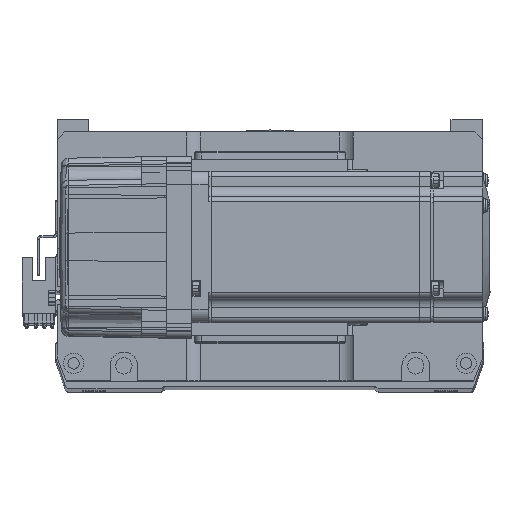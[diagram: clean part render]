
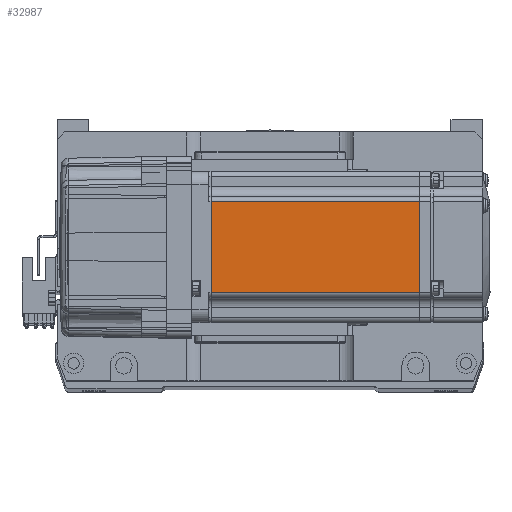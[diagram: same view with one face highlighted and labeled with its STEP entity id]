
A CAD part, top view. The second image highlights one B-rep face of the part: STEP entity #32987.
In plain terms, the highlighted planar face has unit normal (0, 0, 1) as drawn and (0, -1, 0) by its records, which use the part's own axes.
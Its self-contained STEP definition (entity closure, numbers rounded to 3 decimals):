
#3646 = DIRECTION ( 'NONE',  ( -1., 0., 0. ) ) ;
#3876 = AXIS2_PLACEMENT_3D ( 'NONE', #10852, #5365, #58287 ) ;
#3957 = CARTESIAN_POINT ( 'NONE',  ( -90.45, -30., -18. ) ) ;
#4634 = VECTOR ( 'NONE', #5739, 1000. ) ;
#5365 = DIRECTION ( 'NONE',  ( 0., -1., 0. ) ) ;
#5739 = DIRECTION ( 'NONE',  ( 0., 0., 1. ) ) ;
#6112 = EDGE_CURVE ( 'NONE', #9371, #38221, #41312, .T. ) ;
#9371 = VERTEX_POINT ( 'NONE', #43540 ) ;
#10406 = CARTESIAN_POINT ( 'NONE',  ( -7.75, -30., -25. ) ) ;
#10780 = EDGE_CURVE ( 'NONE', #38221, #14851, #18898, .T. ) ;
#10852 = CARTESIAN_POINT ( 'NONE',  ( -6.5, -30., -25. ) ) ;
#14767 = DIRECTION ( 'NONE',  ( 1., 0., 0. ) ) ;
#14851 = VERTEX_POINT ( 'NONE', #38391 ) ;
#15973 = EDGE_CURVE ( 'NONE', #14851, #17823, #31780, .T. ) ;
#17208 = ORIENTED_EDGE ( 'NONE', *, *, #55191, .T. ) ;
#17307 = CARTESIAN_POINT ( 'NONE',  ( -6.5, -30., 18. ) ) ;
#17823 = VERTEX_POINT ( 'NONE', #52213 ) ;
#18336 = CARTESIAN_POINT ( 'NONE',  ( -90.45, -30., -25. ) ) ;
#18898 = LINE ( 'NONE', #29043, #47453 ) ;
#19548 = VECTOR ( 'NONE', #33442, 1000. ) ;
#20815 = ORIENTED_EDGE ( 'NONE', *, *, #15973, .T. ) ;
#24643 = VECTOR ( 'NONE', #3646, 1000. ) ;
#26348 = ORIENTED_EDGE ( 'NONE', *, *, #6112, .T. ) ;
#29043 = CARTESIAN_POINT ( 'NONE',  ( -6.5, -30., -18. ) ) ;
#31780 = LINE ( 'NONE', #10406, #4634 ) ;
#32987 = ADVANCED_FACE ( 'NONE', ( #43995 ), #58698, .T. ) ;
#33442 = DIRECTION ( 'NONE',  ( 0., 0., -1. ) ) ;
#33744 = EDGE_LOOP ( 'NONE', ( #20815, #17208, #26348, #35687 ) ) ;
#35687 = ORIENTED_EDGE ( 'NONE', *, *, #10780, .T. ) ;
#38221 = VERTEX_POINT ( 'NONE', #3957 ) ;
#38391 = CARTESIAN_POINT ( 'NONE',  ( -7.75, -30., -18. ) ) ;
#41312 = LINE ( 'NONE', #18336, #19548 ) ;
#43540 = CARTESIAN_POINT ( 'NONE',  ( -90.45, -30., 18. ) ) ;
#43995 = FACE_OUTER_BOUND ( 'NONE', #33744, .T. ) ;
#47453 = VECTOR ( 'NONE', #14767, 1000. ) ;
#52213 = CARTESIAN_POINT ( 'NONE',  ( -7.75, -30., 18. ) ) ;
#55191 = EDGE_CURVE ( 'NONE', #17823, #9371, #59227, .T. ) ;
#58287 = DIRECTION ( 'NONE',  ( 0., 0., -1. ) ) ;
#58698 = PLANE ( 'NONE',  #3876 ) ;
#59227 = LINE ( 'NONE', #17307, #24643 ) ;
